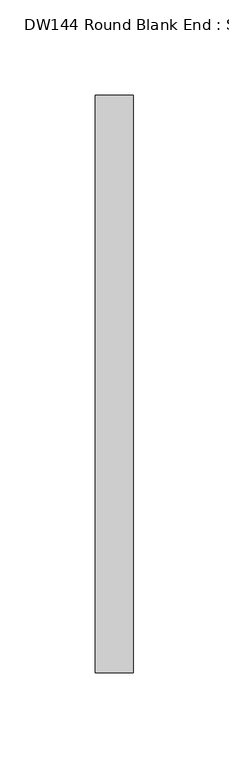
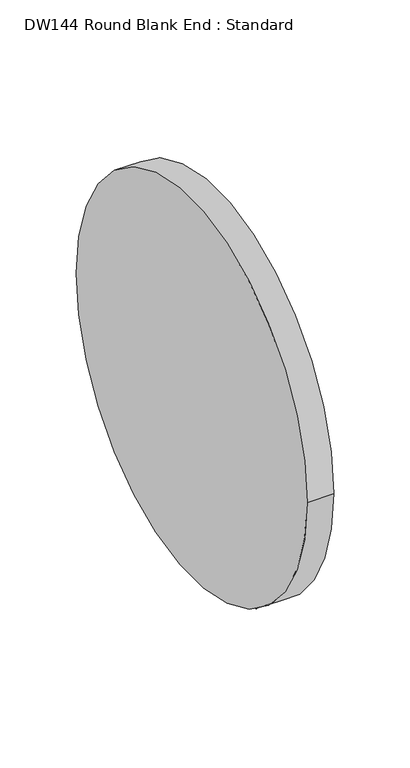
"""IFC4 building model written with IfcOpenShell, lengths in millimetres: duct fitting geometry, DW144 Round Blank End : Standard."""

import ifcopenshell
import ifcopenshell.guid

model = None  # the IFC model being written
_history = None  # IfcOwnerHistory: only IFC2X3 demands one
_inside = {}  # id of a spatial element -> (the spatial element, [elements in it])
_under = {}  # id of a project, library or spatial element -> (it, [spatial elements below it])
_declared = {}  # id of a project -> (the project, [libraries it declares])
_typed = {}  # id of a type object -> (the type object, [elements of that type])
_made_of = {}  # id of a material, layer set ... -> (it, [elements and type objects made of it])


def new_model(schema):
    """Start an empty IFC model of exactly this schema.

    Asked for "IFC4X3", IfcOpenShell would pick the latest addendum, in which some entities
    have other attributes; the version numbers below select the first issue.
    IFC2X3 requires an IfcOwnerHistory on every rooted entity: one is made here for all.
    """
    global model, _history
    if schema == "IFC4X3":
        model = ifcopenshell.file(schema_version=(4, 3, 0, 0))
    else:
        model = ifcopenshell.file(schema=schema)
    _inside.clear()
    _under.clear()
    _declared.clear()
    _typed.clear()
    _made_of.clear()
    _history = None
    if model.schema == "IFC2X3":
        org = make("IfcOrganization", Name="unknown")
        user = make(
            "IfcPersonAndOrganization",
            ThePerson=make("IfcPerson", FamilyName="unknown"),
            TheOrganization=org,
        )
        app = make(
            "IfcApplication",
            ApplicationDeveloper=org,
            Version="unknown",
            ApplicationFullName="unknown",
            ApplicationIdentifier="unknown",
        )
        _history = make(
            "IfcOwnerHistory",
            OwningUser=user,
            OwningApplication=app,
            ChangeAction="ADDED",
            CreationDate=0,
        )
    return model


def make(cls, **values):
    """One entity of the class cls with the attributes given. An attribute that is None is left unset."""
    return model.create_entity(
        cls, **{name: value for name, value in values.items() if value is not None}
    )


def rooted(cls, **values):
    """An entity with a GlobalId (a new one), such as an element, a storey or a relation."""
    return make(cls, GlobalId=ifcopenshell.guid.new(), OwnerHistory=_history, **values)


def si_unit(unit_type, name, prefix=None):
    """IfcSIUnit, for example si_unit("LENGTHUNIT", "METRE", prefix="MILLI")."""
    return make("IfcSIUnit", UnitType=unit_type, Prefix=prefix, Name=name)


def assignment(units):
    """IfcUnitAssignment: the units of a project."""
    return None if units is None else make("IfcUnitAssignment", Units=units)


def point(xyz):
    """IfcCartesianPoint."""
    return None if xyz is None else make("IfcCartesianPoint", Coordinates=xyz)


def direction(xyz):
    """IfcDirection."""
    return None if xyz is None else make("IfcDirection", DirectionRatios=xyz)


def frame(location, z_axis=None, x_axis=None):
    """IfcAxis2Placement3D, a coordinate frame: its origin and axes. An axis left out is left unset."""
    return make(
        "IfcAxis2Placement3D",
        Location=point(location),
        Axis=direction(z_axis),
        RefDirection=direction(x_axis),
    )


def frame_2d(location, x_axis=None):
    """IfcAxis2Placement2D, a coordinate frame in the plane: its origin and x axis."""
    return make(
        "IfcAxis2Placement2D", Location=point(location), RefDirection=direction(x_axis)
    )


def origin():
    """The frame at (0, 0, 0) with its axes left unset."""
    return frame((0.0, 0.0, 0.0))


def origin_2d():
    """The frame at (0, 0) in the plane with its x axis left unset."""
    return frame_2d((0.0, 0.0))


def place(relative_to, where):
    """IfcLocalPlacement: puts the frame where relative to a parent placement (None: the world)."""
    return make(
        "IfcLocalPlacement", PlacementRelTo=relative_to, RelativePlacement=where
    )


def context(
    kind, dimensions, precision=None, world=None, true_north=None, identifier=None
):
    """IfcGeometricRepresentationContext, for example the 3D "Model" context."""
    return make(
        "IfcGeometricRepresentationContext",
        ContextIdentifier=identifier,
        ContextType=kind,
        CoordinateSpaceDimension=dimensions,
        Precision=precision,
        WorldCoordinateSystem=world,
        TrueNorth=true_north,
    )


def project(units=None, contexts=None):
    """IfcProject with its units and contexts."""
    return rooted(
        "IfcProject",
        Name="project",
        RepresentationContexts=contexts,
        UnitsInContext=assignment(units),
    )


def spatial(cls, under=None, at=None, **own):
    """A site, building, storey or space (cls), placed at a placement, below another one or the project."""
    s = rooted(cls, ObjectPlacement=at, **own)
    if under is not None:
        _under.setdefault(under.id(), (under, []))[1].append(s)
    return s


def circle_curve(where, radius):
    """IfcCircle in the frame where."""
    return make("IfcCircle", Position=where, Radius=radius)


def trimmed(basis, trim1, trim2, sense, master):
    """IfcTrimmedCurve: the piece of a basis curve between two trims."""
    return make(
        "IfcTrimmedCurve",
        BasisCurve=basis,
        Trim1=trim1,
        Trim2=trim2,
        SenseAgreement=sense,
        MasterRepresentation=master,
    )


def segment(curve, same_sense, transition):
    """IfcCompositeCurveSegment."""
    return make(
        "IfcCompositeCurveSegment",
        Transition=transition,
        SameSense=same_sense,
        ParentCurve=curve,
    )


def composite_curve(segments, self_intersect=None):
    """IfcCompositeCurve: segments joined end to end."""
    return make("IfcCompositeCurve", Segments=segments, SelfIntersect=self_intersect)


def outline(outer, holes=None, kind="AREA"):
    """IfcArbitraryClosedProfileDef: a profile drawn as a closed curve; with holes, ...WithVoids."""
    if holes is None:
        return make("IfcArbitraryClosedProfileDef", ProfileType=kind, OuterCurve=outer)
    return make(
        "IfcArbitraryProfileDefWithVoids",
        ProfileType=kind,
        OuterCurve=outer,
        InnerCurves=holes,
    )


def extrude(swept, where, along, depth):
    """IfcExtrudedAreaSolid: the profile swept, set in the frame where, extruded along a direction by depth."""
    return make(
        "IfcExtrudedAreaSolid",
        SweptArea=swept,
        Position=where,
        ExtrudedDirection=direction(along),
        Depth=depth,
    )


def shape(context_of_items, identifier, shape_type, items):
    """IfcShapeRepresentation: the items that make up one representation, for example the "Body"."""
    return make(
        "IfcShapeRepresentation",
        ContextOfItems=context_of_items,
        RepresentationIdentifier=identifier,
        RepresentationType=shape_type,
        Items=items,
    )


def source(mapping_origin, context_of_items, identifier, shape_type, items):
    """IfcRepresentationMap: a shape defined once, which mapped items show again and again."""
    return make(
        "IfcRepresentationMap",
        MappingOrigin=mapping_origin,
        MappedRepresentation=shape(context_of_items, identifier, shape_type, items),
    )


def transform(
    local_origin,
    x_axis=None,
    y_axis=None,
    z_axis=None,
    scale=None,
    scale2=None,
    scale3=None,
    uniform=True,
):
    """IfcCartesianTransformationOperator3D, or its non-uniform kind. x_axis, y_axis, z_axis: its Axis1, 2, 3."""
    if uniform:
        return make(
            "IfcCartesianTransformationOperator3D",
            Axis1=direction(x_axis),
            Axis2=direction(y_axis),
            LocalOrigin=point(local_origin),
            Scale=scale,
            Axis3=direction(z_axis),
        )
    return make(
        "IfcCartesianTransformationOperator3DnonUniform",
        Axis1=direction(x_axis),
        Axis2=direction(y_axis),
        LocalOrigin=point(local_origin),
        Scale=scale,
        Axis3=direction(z_axis),
        Scale2=scale2,
        Scale3=scale3,
    )


def mapped(mapping_source, mapping_target):
    """IfcMappedItem: shows the shape of a source again, moved by a transform."""
    return make(
        "IfcMappedItem", MappingSource=mapping_source, MappingTarget=mapping_target
    )


def made_of(thing, what):
    """Note that an element or type object is made of a material, layer set ...; save() writes the relation."""
    if what is not None:
        _made_of.setdefault(what.id(), (what, []))[1].append(thing)
    return thing


def element(
    cls,
    number,
    at=None,
    inside=None,
    cuts=None,
    type_object=None,
    material=None,
    context=None,
    identifier="Body",
    shape_type=None,
    held_by="IfcProductDefinitionShape",
    body=None,
    shapes=None,
    **own,
):
    """One element of the class cls, such as IfcWall. Its Tag is "e" and its number.

    at: its placement. inside: the storey or other place that contains it. cuts: it is an
    opening in that element (IfcRelVoidsElement). A single representation is given by context,
    identifier, shape_type and body (its items); several are given by shapes. held_by: the class
    of the entity that holds the representations. save() writes the other relations.
    """
    e = rooted(cls, Tag="e%d" % number, ObjectPlacement=at, **own)
    if body is not None:
        shapes = [shape(context, identifier, shape_type, body)]
    if shapes is not None:
        e.Representation = make(held_by, Representations=shapes)
    if inside is not None:
        _inside.setdefault(inside.id(), (inside, []))[1].append(e)
    if cuts is not None:
        rooted(
            "IfcRelVoidsElement", RelatingBuildingElement=cuts, RelatedOpeningElement=e
        )
    if type_object is not None:
        _typed.setdefault(type_object.id(), (type_object, []))[1].append(e)
    return made_of(e, material)


def aggregate(whole, parts):
    """IfcRelAggregates: a whole, such as a stair, and the parts it consists of."""
    return rooted("IfcRelAggregates", RelatingObject=whole, RelatedObjects=parts)


def save(model, path):
    """Write the relations noted so far, then the file.

    IfcRelAggregates (storeys below a building ...), IfcRelContainedInSpatialStructure (elements
    in a storey), IfcRelDefinesByType, IfcRelAssociatesMaterial and IfcRelDeclares: one each for
    every whole, place, type object, material and project.
    """
    for whole, parts in _under.values():
        aggregate(whole, parts)
    for where, things in _inside.values():
        rooted(
            "IfcRelContainedInSpatialStructure",
            RelatedElements=things,
            RelatingStructure=where,
        )
    for kind, things in _typed.values():
        rooted("IfcRelDefinesByType", RelatedObjects=things, RelatingType=kind)
    for what, things in _made_of.values():
        rooted("IfcRelAssociatesMaterial", RelatedObjects=things, RelatingMaterial=what)
    for by, libraries in _declared.values():
        rooted("IfcRelDeclares", RelatingContext=by, RelatedDefinitions=libraries)
    model.write(path)


def dw144_round_blank_end_standard_d553ee87(model_context):
    return source(origin(), model_context, "Body", "SweptSolid", [
        extrude(outline(composite_curve([segment(trimmed(circle_curve(origin_2d(), 151.6), [point((-151.6, 0.0))], [point((151.6, 0.0))], False, "CARTESIAN"), True, "CONTINUOUS"), segment(trimmed(circle_curve(origin_2d(), 151.6), [point((151.6, 0.0))], [point((-151.6, 0.0))], False, "CARTESIAN"), True, "CONTINUOUS")], self_intersect=False)), frame((0.0, 0.0, 0.0), z_axis=(1.0, 0.0, 0.0), x_axis=(0.0, 1.0, 0.0)), (0.0, 0.0, 1.0), 20.0),
    ])


if __name__ == "__main__":
    model = new_model("IFC4")
    model_context = context("Model", 3, world=origin())
    ifc_project = project(units=[si_unit("LENGTHUNIT", "METRE", prefix="MILLI")], contexts=[model_context])
    site = spatial("IfcSite", under=ifc_project)
    building = spatial("IfcBuilding", under=site)
    placement = place(None, origin())
    dw144_round_blank_end_standard_shape = dw144_round_blank_end_standard_d553ee87(model_context)
    element("IfcDuctFitting", 1, ObjectType="DW144 Round Blank End : Standard", at=placement, inside=building, context=model_context, shape_type="MappedRepresentation", body=[
        mapped(dw144_round_blank_end_standard_shape, transform((0.0, 0.0, 0.0), x_axis=(1.0, 0.0, 0.0), y_axis=(0.0, 1.0, 0.0), z_axis=(0.0, 0.0, 1.0))),
    ])
    save(model, "model.ifc")
